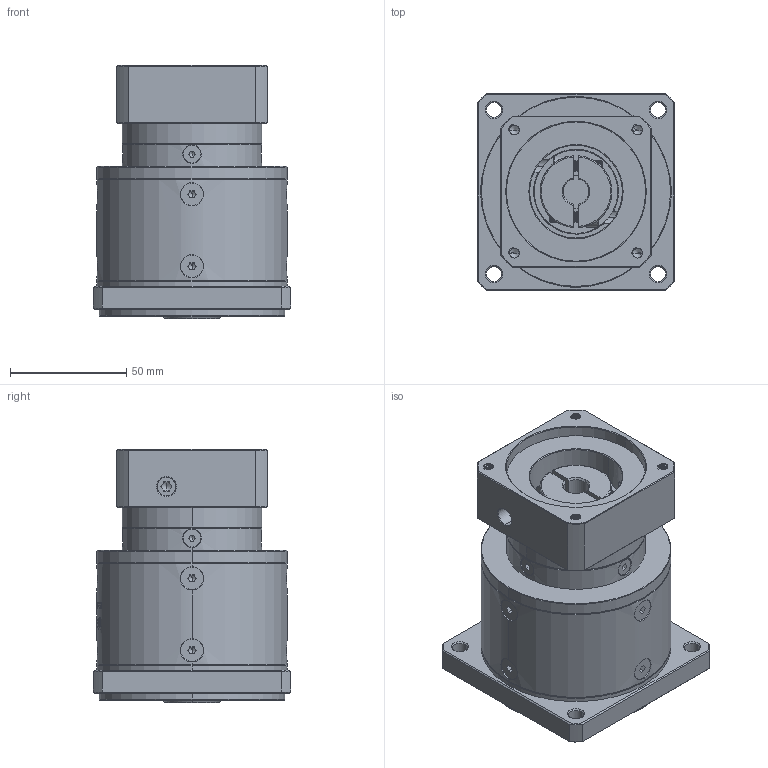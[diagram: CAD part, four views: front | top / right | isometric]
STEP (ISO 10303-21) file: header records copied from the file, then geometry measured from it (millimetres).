
FILE_DESCRIPTION (( 'STEP AP214' ), '1' );
FILE_NAME ('ZF80-K15-L2-11-60-75-M5.step', '2022-09-16T05:38:45', ( '' ), ( 'Microsoft' ), 'SwSTEP 2.0', 'SolidWorks 2016', '' );
FILE_SCHEMA (( 'AUTOMOTIVE_DESIGN' ));
Length unit declared in the file: millimetre
Products named in the file (1): ZF80-K15-L2-11-60-75-M5
Bounding box: 85 x 85 x 109 mm (x, y, z)
Volume: 466015.9 mm3; surface area: 68885.1 mm2
Topology: 18 solids, 18 shells, 1997 faces, 5226 edges, 3325 vertices
Faces by surface type: plane 946, cylinder 398, cone 321, bspline 318, torus 14
Entity records: 104847 total; most frequent: CARTESIAN_POINT 37085, ORIENTED_EDGE 10380, DIRECTION 8324, EDGE_CURVE 5190, VERTEX_POINT 3325, VECTOR 2828, LINE 2828, AXIS2_PLACEMENT_3D 2748
